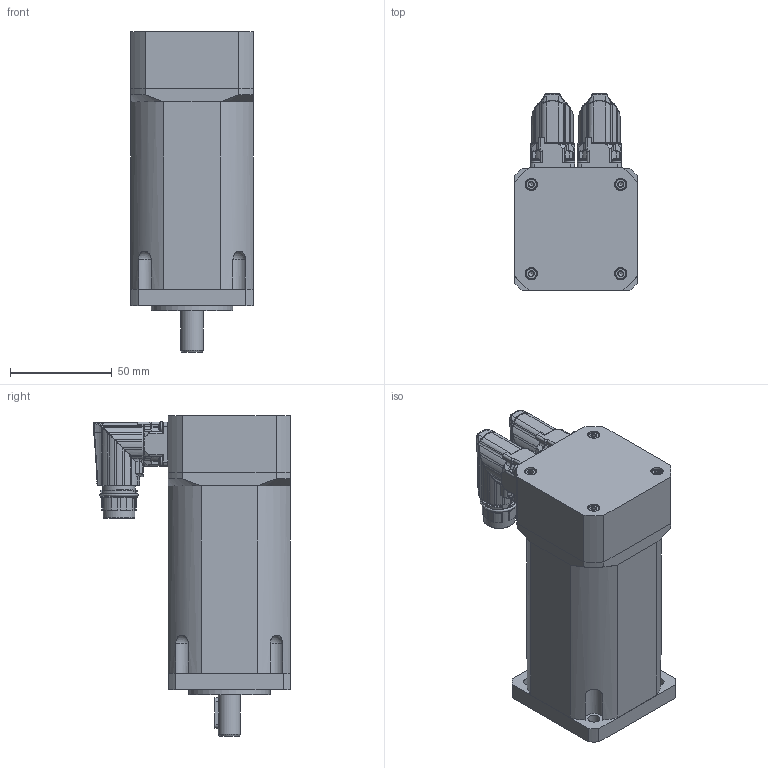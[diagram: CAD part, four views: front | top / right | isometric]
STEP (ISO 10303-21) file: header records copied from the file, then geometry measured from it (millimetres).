
FILE_DESCRIPTION(/* description */ (''),/* implementation_level */ '2;1');
FILE_NAME(/* name */ 'C:\Users\Public\Documents\Autodesk\Inventor LT 2014\Workspace\TG2\DSM5_2x_xxx8\DSM5_21_x1x8.stp',/* time_stamp */ '2016-04-28T09:32:40+02:00',/* author */ ('motion'),/* organization */ (''),/* preprocessor_version */ 'ST-DEVELOPER v15.2',/* originating_system */ 'Autodesk Inventor LT ',/* authorisation */ '');
FILE_SCHEMA (('AUTOMOTIVE_DESIGN { 1 0 10303 214 3 1 1 }'));
Products named in the file (1): DSM5_21_x1x8
Bounding box: 60 x 96.55 x 157.35 mm (x, y, z)
Volume: 484218.2 mm3; surface area: 78393.1 mm2
Topology: 15 solids, 15 shells, 2671 faces, 6846 edges, 4229 vertices
Faces by surface type: cylinder 935, plane 721, bspline 395, torus 282, cone 240, sphere 98
Full cylindrical faces by diameter (mm): 0.6 x17, 1 x7, 1.1 x17, 2.1 x15, 2.224 x8, 2.5 x8, 2.7 x8, 3 x8, 3.2 x6, 3.242 x1, 4.8 x2, 5 x2, 5.5 x8, 5.8 x4, 6 x8, 11 x1, 11.7 x1, 13.701 x1, 14.2 x2, 15 x1, 15.54 x2, 16 x1, 25 x1, 28 x1, 35 x2, 40 x1
Entity records: 115947 total; most frequent: CARTESIAN_POINT 52315, ORIENTED_EDGE 12786, DIRECTION 12629, EDGE_CURVE 6393, AXIS2_PLACEMENT_3D 5296, VERTEX_POINT 4136, EDGE_LOOP 3098, ADVANCED_FACE 2671
